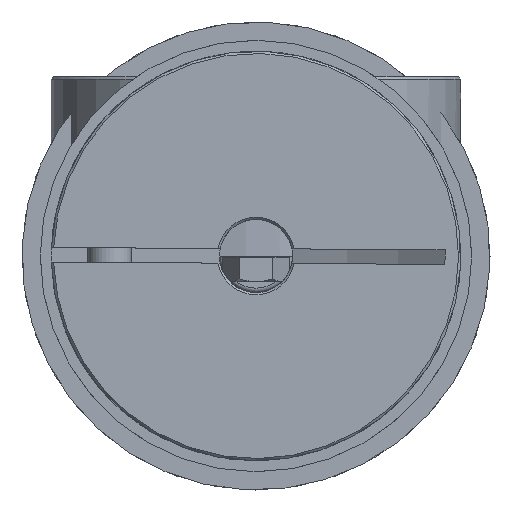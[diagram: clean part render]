
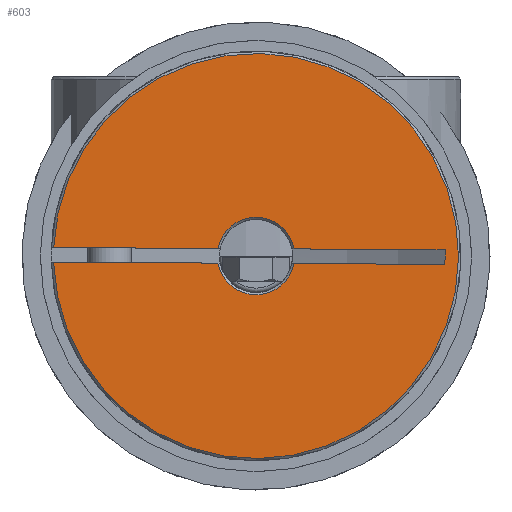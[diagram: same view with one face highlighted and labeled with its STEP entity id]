
A CAD part, left-side view. The second image highlights one B-rep face of the part: STEP entity #603.
In plain terms, the highlighted planar face has unit normal (-1, 0, 0) as drawn and (0, 0, 1) by its records, which use the part's own axes.
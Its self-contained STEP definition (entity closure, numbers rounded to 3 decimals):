
#603 = ADVANCED_FACE( 'NONE', ( #1182 ), #1183, .T. );
#1182 = FACE_OUTER_BOUND( '', #1739, .T. );
#1183 = PLANE( '', #1740 );
#1739 = EDGE_LOOP( '', ( #2797, #2798, #2799, #2800, #2801, #2802, #2803, #2804 ) );
#1740 = AXIS2_PLACEMENT_3D( '', #2805, #2806, #2807 );
#2797 = ORIENTED_EDGE( '', *, *, #3341, .F. );
#2798 = ORIENTED_EDGE( '', *, *, #3294, .T. );
#2799 = ORIENTED_EDGE( '', *, *, #3340, .T. );
#2800 = ORIENTED_EDGE( '', *, *, #3335, .T. );
#2801 = ORIENTED_EDGE( '', *, *, #3337, .T. );
#2802 = ORIENTED_EDGE( '', *, *, #3339, .F. );
#2803 = ORIENTED_EDGE( '', *, *, #3327, .F. );
#2804 = ORIENTED_EDGE( '', *, *, #3330, .T. );
#2805 = CARTESIAN_POINT( '', ( 0., 0., 24.5 ) );
#2806 = DIRECTION( '', ( 0., 0., 1. ) );
#2807 = DIRECTION( '', ( 1., 0., 0. ) );
#3294 = EDGE_CURVE( 'NONE', #3776, #3774, #3777, .T. );
#3327 = EDGE_CURVE( 'NONE', #3835, #3837, #3838, .F. );
#3330 = EDGE_CURVE( 'NONE', #3835, #3840, #3842, .F. );
#3335 = EDGE_CURVE( 'NONE', #3848, #3846, #3849, .F. );
#3337 = EDGE_CURVE( 'NONE', #3846, #3851, #3852, .T. );
#3339 = EDGE_CURVE( 'NONE', #3837, #3851, #3854, .F. );
#3340 = EDGE_CURVE( 'NONE', #3774, #3848, #3855, .T. );
#3341 = EDGE_CURVE( 'NONE', #3776, #3840, #3856, .F. );
#3774 = VERTEX_POINT( 'NONE', #4690 );
#3776 = VERTEX_POINT( 'NONE', #4695 );
#3777 = CIRCLE( '', #4696, 27.7 );
#3835 = VERTEX_POINT( 'NONE', #4914 );
#3837 = VERTEX_POINT( 'NONE', #4919 );
#3838 = LINE( '', #4920, #4921 );
#3840 = VERTEX_POINT( 'NONE', #4923 );
#3842 = CIRCLE( '', #4928, 5.3 );
#3846 = VERTEX_POINT( 'NONE', #4934 );
#3848 = VERTEX_POINT( 'NONE', #4939 );
#3849 = CIRCLE( '', #4940, 5.3 );
#3851 = VERTEX_POINT( 'NONE', #4945 );
#3852 = LINE( '', #4946, #4947 );
#3854 = LINE( '', #4949, #4950 );
#3855 = LINE( '', #4951, #4952 );
#3856 = LINE( '', #4953, #4954 );
#4690 = CARTESIAN_POINT( '', ( 27.682, -1., 24.5 ) );
#4695 = CARTESIAN_POINT( '', ( 27.682, 1., 24.5 ) );
#4696 = AXIS2_PLACEMENT_3D( '', #5430, #5431, #5432 );
#4914 = CARTESIAN_POINT( '', ( -5.205, 1., 24.5 ) );
#4919 = CARTESIAN_POINT( '', ( -25.849, 1., 24.5 ) );
#4920 = CARTESIAN_POINT( '', ( 17., 1., 24.5 ) );
#4921 = VECTOR( '', #5490, 1000. );
#4923 = CARTESIAN_POINT( '', ( 5.205, 1., 24.5 ) );
#4928 = AXIS2_PLACEMENT_3D( '', #5494, #5495, #5496 );
#4934 = CARTESIAN_POINT( '', ( -5.205, -1., 24.5 ) );
#4939 = CARTESIAN_POINT( '', ( 5.205, -1., 24.5 ) );
#4940 = AXIS2_PLACEMENT_3D( '', #5502, #5503, #5504 );
#4945 = CARTESIAN_POINT( '', ( -25.849, -1., 24.5 ) );
#4946 = CARTESIAN_POINT( '', ( 0., -1., 24.5 ) );
#4947 = VECTOR( '', #5505, 1000. );
#4949 = CARTESIAN_POINT( '', ( -25.849, -1., 24.5 ) );
#4950 = VECTOR( '', #5509, 1000. );
#4951 = CARTESIAN_POINT( '', ( 0., -1., 24.5 ) );
#4952 = VECTOR( '', #5510, 1000. );
#4953 = CARTESIAN_POINT( '', ( 17., 1., 24.5 ) );
#4954 = VECTOR( '', #5511, 1000. );
#5430 = CARTESIAN_POINT( '', ( 0., 0., 24.5 ) );
#5431 = DIRECTION( '', ( 0., 0., 1. ) );
#5432 = DIRECTION( '', ( 1., 0., 0. ) );
#5490 = DIRECTION( '', ( 1., 0., 0. ) );
#5494 = CARTESIAN_POINT( '', ( 0., 0., 24.5 ) );
#5495 = DIRECTION( '', ( 0., 0., 1. ) );
#5496 = DIRECTION( '', ( 1., 0., 0. ) );
#5502 = CARTESIAN_POINT( '', ( 0., 0., 24.5 ) );
#5503 = DIRECTION( '', ( 0., 0., 1. ) );
#5504 = DIRECTION( '', ( 1., 0., 0. ) );
#5505 = DIRECTION( '', ( -1., 0., 0. ) );
#5509 = DIRECTION( '', ( 0., 1., 0. ) );
#5510 = DIRECTION( '', ( -1., 0., 0. ) );
#5511 = DIRECTION( '', ( 1., 0., 0. ) );
